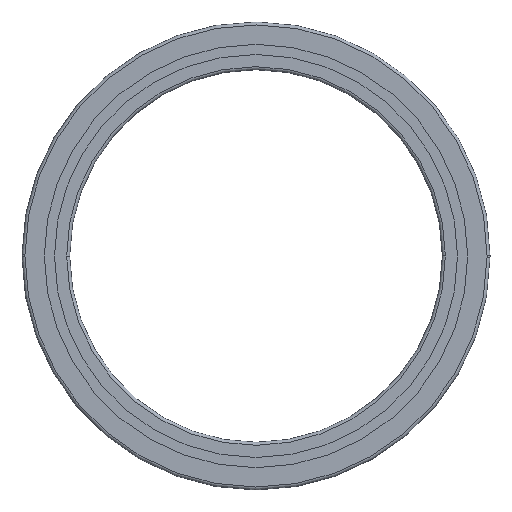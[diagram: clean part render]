
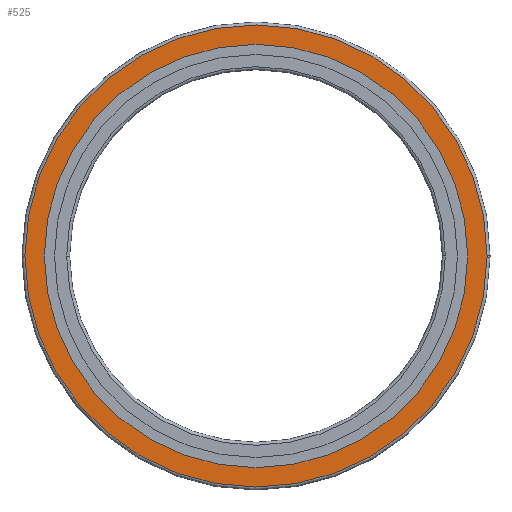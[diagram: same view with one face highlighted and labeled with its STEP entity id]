
A CAD part, front view. The second image highlights one B-rep face of the part: STEP entity #525.
In plain terms, the highlighted planar face has unit normal (0, -1, 0).
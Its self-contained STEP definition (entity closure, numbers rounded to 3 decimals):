
#323=EDGE_CURVE('',#821,#409,#863,.T.);
#331=VERTEX_POINT('',#872);
#409=VERTEX_POINT('',#956);
#441=EDGE_CURVE('',#815,#331,#990,.T.);
#519=EDGE_CURVE('',#331,#821,#1075,.T.);
#525=ADVANCED_FACE('',(#1081,#1082),#1083,.F.);
#593=EDGE_CURVE('',#409,#815,#1157,.T.);
#615=EDGE_CURVE('',#653,#817,#1182,.T.);
#649=EDGE_CURVE('',#817,#653,#1223,.T.);
#653=VERTEX_POINT('',#1227);
#815=VERTEX_POINT('',#1417);
#817=VERTEX_POINT('',#1419);
#821=VERTEX_POINT('',#1423);
#863=CIRCLE('',#1466,155.0);
#872=CARTESIAN_POINT('',(154.997,0.0,-0.958));
#956=CARTESIAN_POINT('',(-154.997,0.0,0.958));
#990=CIRCLE('',#1624,155.0);
#1075=CIRCLE('',#1727,155.0);
#1081=FACE_OUTER_BOUND('',#1734,.T.);
#1082=FACE_BOUND('',#1735,.T.);
#1083=PLANE('',#1736);
#1157=CIRCLE('',#1826,155.0);
#1182=CIRCLE('',#1859,142.0);
#1223=CIRCLE('',#1912,142.0);
#1227=CARTESIAN_POINT('',(142.0,0.0,0.));
#1417=CARTESIAN_POINT('',(-155.0,0.0,0.));
#1419=CARTESIAN_POINT('',(-142.0,0.0,0.0));
#1423=CARTESIAN_POINT('',(155.0,0.0,0.0));
#1466=AXIS2_PLACEMENT_3D('',#2171,#2172,#2173);
#1624=AXIS2_PLACEMENT_3D('',#2320,#2321,#2322);
#1727=AXIS2_PLACEMENT_3D('',#2424,#2425,#2426);
#1734=EDGE_LOOP('',(#2431,#2432,#2433,#2434));
#1735=EDGE_LOOP('',(#2435,#2436));
#1736=AXIS2_PLACEMENT_3D('',#2437,#2438,#2439);
#1826=AXIS2_PLACEMENT_3D('',#2523,#2524,#2525);
#1859=AXIS2_PLACEMENT_3D('',#2560,#2561,#2562);
#1912=AXIS2_PLACEMENT_3D('',#2636,#2637,#2638);
#2171=CARTESIAN_POINT('',(0.0,0.0,0.0));
#2172=DIRECTION('',(0.0,-1.0,0.0));
#2173=DIRECTION('',(1.0,0.0,0.0));
#2320=CARTESIAN_POINT('',(0.0,0.0,0.0));
#2321=DIRECTION('',(0.0,-1.0,0.0));
#2322=DIRECTION('',(-1.0,0.0,0.0));
#2424=CARTESIAN_POINT('',(0.0,0.0,0.0));
#2425=DIRECTION('',(0.0,-1.0,0.0));
#2426=DIRECTION('',(-1.0,0.0,0.0));
#2431=ORIENTED_EDGE('',*,*,#323,.T.);
#2432=ORIENTED_EDGE('',*,*,#593,.T.);
#2433=ORIENTED_EDGE('',*,*,#441,.T.);
#2434=ORIENTED_EDGE('',*,*,#519,.T.);
#2435=ORIENTED_EDGE('',*,*,#649,.F.);
#2436=ORIENTED_EDGE('',*,*,#615,.F.);
#2437=CARTESIAN_POINT('',(0.0,0.0,0.0));
#2438=DIRECTION('',(0.0,1.0,0.0));
#2439=DIRECTION('',(1.0,0.0,-0.0));
#2523=CARTESIAN_POINT('',(0.0,0.0,0.0));
#2524=DIRECTION('',(0.0,-1.0,0.0));
#2525=DIRECTION('',(1.0,0.0,0.0));
#2560=CARTESIAN_POINT('',(0.0,0.0,0.0));
#2561=DIRECTION('',(0.0,-1.0,0.0));
#2562=DIRECTION('',(1.0,0.0,0.0));
#2636=CARTESIAN_POINT('',(0.0,0.0,0.0));
#2637=DIRECTION('',(0.0,-1.0,0.0));
#2638=DIRECTION('',(-1.0,0.0,0.0));
